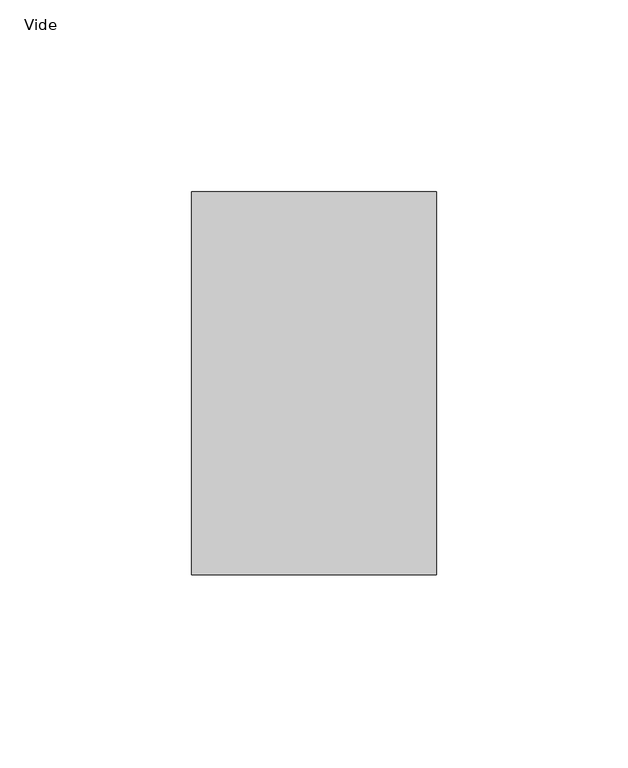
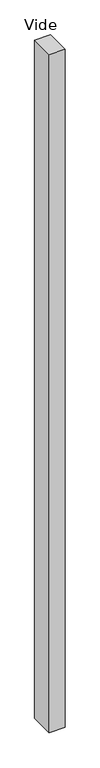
"""IFC4 building model written with IfcOpenShell, lengths in millimetres: plate geometry, Panneau système vide : Vide."""

from ifc_helpers import new_model, si_unit, origin, origin_with_axes, place, context, project, spatial, polyline, outline, extrude, source, transform, mapped, element, save


def vide_9c2dc285(model_context):
    return source(origin(), model_context, "Body", "SweptSolid", [
        extrude(outline(polyline([(32.0, 50.0), (-32.0, 50.0), (-32.0, 150.0), (32.0, 150.0), (32.0, 50.0)])), origin_with_axes(), (0.0, 0.0, 1.0), 2869.2760479),
    ])


if __name__ == "__main__":
    model = new_model("IFC4")
    model_context = context("Model", 3, world=origin())
    ifc_project = project(units=[si_unit("LENGTHUNIT", "METRE", prefix="MILLI")], contexts=[model_context])
    site = spatial("IfcSite", under=ifc_project)
    building = spatial("IfcBuilding", under=site)
    placement = place(None, origin())
    vide_shape = vide_9c2dc285(model_context)
    element("IfcPlate", 1, ObjectType="Panneau système vide : Vide", at=placement, inside=building, context=model_context, shape_type="MappedRepresentation", body=[
        mapped(vide_shape, transform((0.0, 0.0, 0.0), x_axis=(1.0, 0.0, 0.0), y_axis=(0.0, 1.0, 0.0), z_axis=(0.0, 0.0, 1.0))),
    ])
    save(model, "model.ifc")
